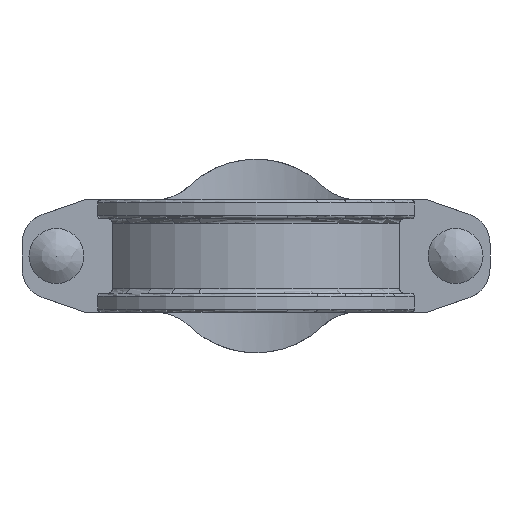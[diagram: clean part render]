
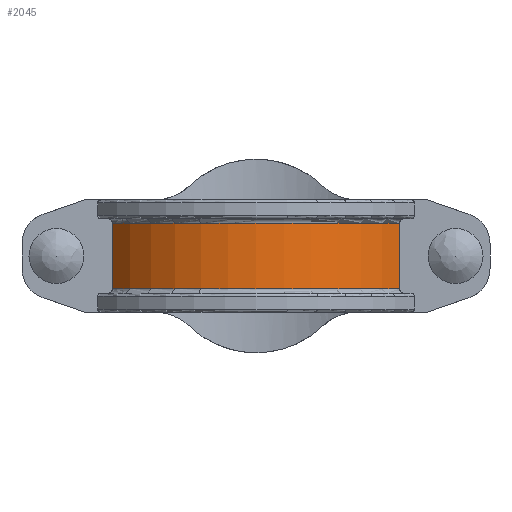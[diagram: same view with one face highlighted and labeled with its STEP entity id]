
A CAD part, front view. The second image highlights one B-rep face of the part: STEP entity #2045.
In plain terms, the highlighted cylindrical face has radius 88.976 mm (diameter 177.952 mm), a partial arc.
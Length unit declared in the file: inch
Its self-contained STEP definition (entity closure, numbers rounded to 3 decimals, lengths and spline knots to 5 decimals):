
#140=CYLINDRICAL_SURFACE('',#2244,3.503);
#237=CIRCLE('',#2243,3.503);
#238=CIRCLE('',#2245,3.503);
#325=FACE_OUTER_BOUND('',#435,.T.);
#435=EDGE_LOOP('',(#1651,#1652,#1653,#1654));
#589=LINE('',#4050,#739);
#590=LINE('',#4053,#740);
#739=VECTOR('',#2734,0.3937);
#740=VECTOR('',#2737,0.3937);
#931=VERTEX_POINT('',#4025);
#932=VERTEX_POINT('',#4036);
#933=VERTEX_POINT('',#4049);
#934=VERTEX_POINT('',#4051);
#1198=EDGE_CURVE('',#931,#932,#237,.T.);
#1200=EDGE_CURVE('',#933,#931,#589,.T.);
#1201=EDGE_CURVE('',#933,#934,#238,.T.);
#1202=EDGE_CURVE('',#932,#934,#590,.T.);
#1651=ORIENTED_EDGE('',*,*,#1200,.F.);
#1652=ORIENTED_EDGE('',*,*,#1201,.T.);
#1653=ORIENTED_EDGE('',*,*,#1202,.F.);
#1654=ORIENTED_EDGE('',*,*,#1198,.F.);
#2045=ADVANCED_FACE('',(#325),#140,.T.);
#2243=AXIS2_PLACEMENT_3D('',#4037,#2730,#2731);
#2244=AXIS2_PLACEMENT_3D('',#4048,#2732,#2733);
#2245=AXIS2_PLACEMENT_3D('',#4052,#2735,#2736);
#2730=DIRECTION('center_axis',(0.,0.,1.));
#2731=DIRECTION('ref_axis',(-1.,0.,0.));
#2732=DIRECTION('center_axis',(0.,0.,1.));
#2733=DIRECTION('ref_axis',(-1.,0.,0.));
#2734=DIRECTION('',(0.,0.,1.));
#2735=DIRECTION('center_axis',(0.,0.,1.));
#2736=DIRECTION('ref_axis',(-1.,0.,0.));
#2737=DIRECTION('',(0.,0.,-1.));
#4025=CARTESIAN_POINT('',(-2.87594,-2.,0.655));
#4036=CARTESIAN_POINT('',(2.87594,-2.,0.655));
#4037=CARTESIAN_POINT('Origin',(0.,0.,
0.655));
#4048=CARTESIAN_POINT('Origin',(0.,0.,0.));
#4049=CARTESIAN_POINT('',(-2.87594,-2.,-0.655));
#4050=CARTESIAN_POINT('',(-2.87594,-2.,0.));
#4051=CARTESIAN_POINT('',(2.87594,-2.,-0.655));
#4052=CARTESIAN_POINT('Origin',(0.,0.,
-0.655));
#4053=CARTESIAN_POINT('',(2.87594,-2.,0.));
